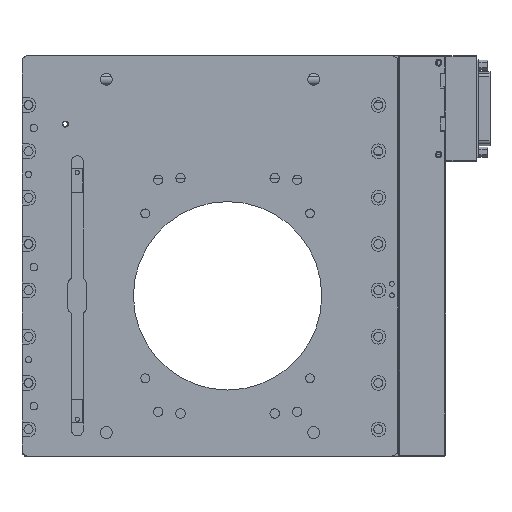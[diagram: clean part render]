
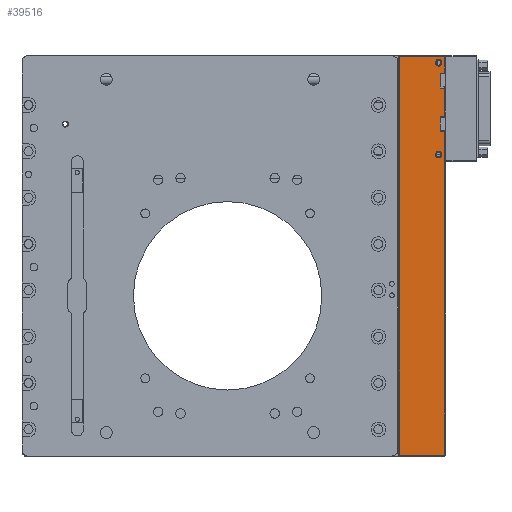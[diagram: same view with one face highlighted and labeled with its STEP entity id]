
A CAD part, front view. The second image highlights one B-rep face of the part: STEP entity #39516.
In plain terms, the highlighted planar face has unit normal (0, -1, 0).
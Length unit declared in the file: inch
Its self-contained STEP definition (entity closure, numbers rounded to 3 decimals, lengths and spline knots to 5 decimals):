
#851 = ORIENTED_EDGE ( 'NONE', *, *, #33131, .T. ) ;
#946 = CARTESIAN_POINT ( 'NONE',  ( 4.99, -0.27997, 4.251 ) ) ;
#962 = EDGE_CURVE ( 'NONE', #28626, #19491, #9606, .T. ) ;
#976 = LINE ( 'NONE', #33036, #3953 ) ;
#1166 = CARTESIAN_POINT ( 'NONE',  ( 4.924, -0.27997, 2.151 ) ) ;
#1434 = CARTESIAN_POINT ( 'NONE',  ( 4.01, -0.27997, 4.231 ) ) ;
#1907 = FACE_OUTER_BOUND ( 'NONE', #18974, .T. ) ;
#2351 = EDGE_CURVE ( 'NONE', #26603, #33135, #12605, .T. ) ;
#2931 = DIRECTION ( 'NONE',  ( 0., -1., 0. ) ) ;
#2998 = ORIENTED_EDGE ( 'NONE', *, *, #962, .F. ) ;
#3953 = VECTOR ( 'NONE', #30403, 39.37008 ) ;
#4520 = ORIENTED_EDGE ( 'NONE', *, *, #15218, .F. ) ;
#5605 = ORIENTED_EDGE ( 'NONE', *, *, #26687, .T. ) ;
#5801 = EDGE_CURVE ( 'NONE', #27746, #29201, #34145, .T. ) ;
#6430 = EDGE_LOOP ( 'NONE', ( #4520, #2998 ) ) ;
#6455 = EDGE_CURVE ( 'NONE', #43120, #8009, #19056, .T. ) ;
#7087 = CARTESIAN_POINT ( 'NONE',  ( 4.99, -0.27997, 4.251 ) ) ;
#7255 = CARTESIAN_POINT ( 'NONE',  ( 4.89, -0.27997, 3.881 ) ) ;
#7409 = EDGE_CURVE ( 'NONE', #12376, #36174, #40988, .T. ) ;
#8009 = VERTEX_POINT ( 'NONE', #24819 ) ;
#8444 = CARTESIAN_POINT ( 'NONE',  ( 4.89, -0.27997, 3.566 ) ) ;
#8573 = CARTESIAN_POINT ( 'NONE',  ( 4.89, -0.27997, 3.881 ) ) ;
#9606 = CIRCLE ( 'NONE', #33075, 0.069 ) ;
#9726 = CARTESIAN_POINT ( 'NONE',  ( 4.89, -0.27997, 2.959 ) ) ;
#9953 = DIRECTION ( 'NONE',  ( 1., 0., 0. ) ) ;
#10487 = CARTESIAN_POINT ( 'NONE',  ( 4.89, -0.27997, 3.566 ) ) ;
#10509 = DIRECTION ( 'NONE',  ( 0., 0., 1. ) ) ;
#10679 = VERTEX_POINT ( 'NONE', #7255 ) ;
#11357 = CARTESIAN_POINT ( 'NONE',  ( 4.855, -0.27997, 2.151 ) ) ;
#11631 = CARTESIAN_POINT ( 'NONE',  ( 4.89, -0.27997, 3.881 ) ) ;
#12376 = VERTEX_POINT ( 'NONE', #32309 ) ;
#12605 = LINE ( 'NONE', #42020, #22642 ) ;
#12686 = CARTESIAN_POINT ( 'NONE',  ( 4.99, -0.27997, 3.881 ) ) ;
#13442 = EDGE_CURVE ( 'NONE', #10679, #43120, #38460, .T. ) ;
#15218 = EDGE_CURVE ( 'NONE', #19491, #28626, #20060, .T. ) ;
#15457 = VECTOR ( 'NONE', #40349, 39.37008 ) ;
#15648 = CARTESIAN_POINT ( 'NONE',  ( 4.03, -0.27997, -4.229 ) ) ;
#15736 = CARTESIAN_POINT ( 'NONE',  ( 4.99, -0.27997, 2.959 ) ) ;
#15873 = VERTEX_POINT ( 'NONE', #46224 ) ;
#16163 = VERTEX_POINT ( 'NONE', #15648 ) ;
#16239 = LINE ( 'NONE', #1434, #16674 ) ;
#16476 = CARTESIAN_POINT ( 'NONE',  ( 4.51, -0.27997, 0.001 ) ) ;
#16636 = VECTOR ( 'NONE', #42209, 39.37008 ) ;
#16674 = VECTOR ( 'NONE', #33958, 39.37008 ) ;
#17241 = CARTESIAN_POINT ( 'NONE',  ( 4.99, -0.27997, 4.251 ) ) ;
#18220 = ORIENTED_EDGE ( 'NONE', *, *, #2351, .T. ) ;
#18543 = DIRECTION ( 'NONE',  ( 0., -1., 0. ) ) ;
#18681 = VERTEX_POINT ( 'NONE', #37300 ) ;
#18974 = EDGE_LOOP ( 'NONE', ( #18220, #34436, #21720, #46304, #28766, #44116, #39600, #851, #26598, #5605, #22711, #33799 ) ) ;
#19056 = LINE ( 'NONE', #946, #36483 ) ;
#19295 = DIRECTION ( 'NONE',  ( 1., 0., 0. ) ) ;
#19477 = LINE ( 'NONE', #11631, #15457 ) ;
#19491 = VERTEX_POINT ( 'NONE', #34518 ) ;
#19550 = DIRECTION ( 'NONE',  ( 0., -1., 0. ) ) ;
#19606 = EDGE_CURVE ( 'NONE', #33135, #12376, #44193, .T. ) ;
#19742 = AXIS2_PLACEMENT_3D ( 'NONE', #16476, #19550, #45403 ) ;
#19773 = ORIENTED_EDGE ( 'NONE', *, *, #38335, .F. ) ;
#20060 = CIRCLE ( 'NONE', #26102, 0.069 ) ;
#20699 = EDGE_CURVE ( 'NONE', #16163, #22514, #40281, .T. ) ;
#21720 = ORIENTED_EDGE ( 'NONE', *, *, #7409, .T. ) ;
#22514 = VERTEX_POINT ( 'NONE', #28912 ) ;
#22642 = VECTOR ( 'NONE', #9953, 39.37008 ) ;
#22711 = ORIENTED_EDGE ( 'NONE', *, *, #29864, .T. ) ;
#22965 = VECTOR ( 'NONE', #10509, 39.37008 ) ;
#22978 = DIRECTION ( 'NONE',  ( -1., 0., 0. ) ) ;
#23845 = CARTESIAN_POINT ( 'NONE',  ( 4.855, -0.27997, 4.101 ) ) ;
#24819 = CARTESIAN_POINT ( 'NONE',  ( 4.99, -0.27997, 4.231 ) ) ;
#25343 = CARTESIAN_POINT ( 'NONE',  ( 4.89, -0.27997, 2.644 ) ) ;
#25705 = LINE ( 'NONE', #28345, #22965 ) ;
#25777 = CIRCLE ( 'NONE', #31801, 0.069 ) ;
#26102 = AXIS2_PLACEMENT_3D ( 'NONE', #23845, #45667, #37559 ) ;
#26598 = ORIENTED_EDGE ( 'NONE', *, *, #20699, .T. ) ;
#26603 = VERTEX_POINT ( 'NONE', #9726 ) ;
#26687 = EDGE_CURVE ( 'NONE', #22514, #15873, #32720, .T. ) ;
#27617 = PLANE ( 'NONE',  #19742 ) ;
#27740 = CARTESIAN_POINT ( 'NONE',  ( 4.89, -0.27997, 2.644 ) ) ;
#27746 = VERTEX_POINT ( 'NONE', #46579 ) ;
#28345 = CARTESIAN_POINT ( 'NONE',  ( 4.89, -0.27997, 2.959 ) ) ;
#28626 = VERTEX_POINT ( 'NONE', #41034 ) ;
#28766 = ORIENTED_EDGE ( 'NONE', *, *, #13442, .T. ) ;
#28837 = VERTEX_POINT ( 'NONE', #25343 ) ;
#28912 = CARTESIAN_POINT ( 'NONE',  ( 4.99, -0.27997, -4.229 ) ) ;
#29201 = VERTEX_POINT ( 'NONE', #1166 ) ;
#29587 = AXIS2_PLACEMENT_3D ( 'NONE', #11357, #18543, #33177 ) ;
#29674 = EDGE_LOOP ( 'NONE', ( #30105, #19773 ) ) ;
#29864 = EDGE_CURVE ( 'NONE', #15873, #28837, #39110, .T. ) ;
#30105 = ORIENTED_EDGE ( 'NONE', *, *, #5801, .F. ) ;
#30403 = DIRECTION ( 'NONE',  ( 0., 0., -1. ) ) ;
#30442 = EDGE_CURVE ( 'NONE', #8009, #18681, #16239, .T. ) ;
#30469 = CARTESIAN_POINT ( 'NONE',  ( 4.855, -0.27997, 2.151 ) ) ;
#31116 = FACE_BOUND ( 'NONE', #29674, .T. ) ;
#31328 = VECTOR ( 'NONE', #36917, 39.37008 ) ;
#31801 = AXIS2_PLACEMENT_3D ( 'NONE', #30469, #38069, #45218 ) ;
#32309 = CARTESIAN_POINT ( 'NONE',  ( 4.99, -0.27997, 3.566 ) ) ;
#32664 = CARTESIAN_POINT ( 'NONE',  ( 5.01, -0.27997, -4.229 ) ) ;
#32720 = LINE ( 'NONE', #7087, #33077 ) ;
#33036 = CARTESIAN_POINT ( 'NONE',  ( 4.03, -0.27997, -4.249 ) ) ;
#33075 = AXIS2_PLACEMENT_3D ( 'NONE', #35018, #2931, #46468 ) ;
#33077 = VECTOR ( 'NONE', #43201, 39.37008 ) ;
#33079 = EDGE_CURVE ( 'NONE', #28837, #26603, #25705, .T. ) ;
#33131 = EDGE_CURVE ( 'NONE', #18681, #16163, #976, .T. ) ;
#33135 = VERTEX_POINT ( 'NONE', #15736 ) ;
#33177 = DIRECTION ( 'NONE',  ( -1., 0., 0. ) ) ;
#33799 = ORIENTED_EDGE ( 'NONE', *, *, #33079, .T. ) ;
#33958 = DIRECTION ( 'NONE',  ( -1., 0., 0. ) ) ;
#34145 = CIRCLE ( 'NONE', #29587, 0.069 ) ;
#34436 = ORIENTED_EDGE ( 'NONE', *, *, #19606, .T. ) ;
#34518 = CARTESIAN_POINT ( 'NONE',  ( 4.786, -0.27997, 4.101 ) ) ;
#35018 = CARTESIAN_POINT ( 'NONE',  ( 4.855, -0.27997, 4.101 ) ) ;
#36174 = VERTEX_POINT ( 'NONE', #10487 ) ;
#36368 = VECTOR ( 'NONE', #22978, 39.37008 ) ;
#36483 = VECTOR ( 'NONE', #39463, 39.37008 ) ;
#36917 = DIRECTION ( 'NONE',  ( 1., 0., 0. ) ) ;
#37300 = CARTESIAN_POINT ( 'NONE',  ( 4.03, -0.27997, 4.231 ) ) ;
#37559 = DIRECTION ( 'NONE',  ( -1., 0., 0. ) ) ;
#38069 = DIRECTION ( 'NONE',  ( 0., -1., 0. ) ) ;
#38335 = EDGE_CURVE ( 'NONE', #29201, #27746, #25777, .T. ) ;
#38460 = LINE ( 'NONE', #8573, #39570 ) ;
#39110 = LINE ( 'NONE', #27740, #16636 ) ;
#39463 = DIRECTION ( 'NONE',  ( 0., 0., 1. ) ) ;
#39516 = ADVANCED_FACE ( 'NONE', ( #41590, #31116, #1907 ), #27617, .T. ) ;
#39570 = VECTOR ( 'NONE', #19295, 39.37008 ) ;
#39600 = ORIENTED_EDGE ( 'NONE', *, *, #30442, .T. ) ;
#40281 = LINE ( 'NONE', #32664, #31328 ) ;
#40349 = DIRECTION ( 'NONE',  ( 0., 0., 1. ) ) ;
#40988 = LINE ( 'NONE', #8444, #36368 ) ;
#41034 = CARTESIAN_POINT ( 'NONE',  ( 4.924, -0.27997, 4.101 ) ) ;
#41590 = FACE_BOUND ( 'NONE', #6430, .T. ) ;
#42020 = CARTESIAN_POINT ( 'NONE',  ( 4.89, -0.27997, 2.959 ) ) ;
#42209 = DIRECTION ( 'NONE',  ( -1., 0., 0. ) ) ;
#42763 = EDGE_CURVE ( 'NONE', #36174, #10679, #19477, .T. ) ;
#43051 = DIRECTION ( 'NONE',  ( 0., 0., 1. ) ) ;
#43120 = VERTEX_POINT ( 'NONE', #12686 ) ;
#43201 = DIRECTION ( 'NONE',  ( 0., 0., 1. ) ) ;
#44116 = ORIENTED_EDGE ( 'NONE', *, *, #6455, .T. ) ;
#44193 = LINE ( 'NONE', #17241, #45346 ) ;
#45218 = DIRECTION ( 'NONE',  ( -1., 0., 0. ) ) ;
#45346 = VECTOR ( 'NONE', #43051, 39.37008 ) ;
#45403 = DIRECTION ( 'NONE',  ( -1., 0., 0. ) ) ;
#45667 = DIRECTION ( 'NONE',  ( 0., -1., 0. ) ) ;
#46224 = CARTESIAN_POINT ( 'NONE',  ( 4.99, -0.27997, 2.644 ) ) ;
#46304 = ORIENTED_EDGE ( 'NONE', *, *, #42763, .T. ) ;
#46468 = DIRECTION ( 'NONE',  ( -1., 0., 0. ) ) ;
#46579 = CARTESIAN_POINT ( 'NONE',  ( 4.786, -0.27997, 2.151 ) ) ;
